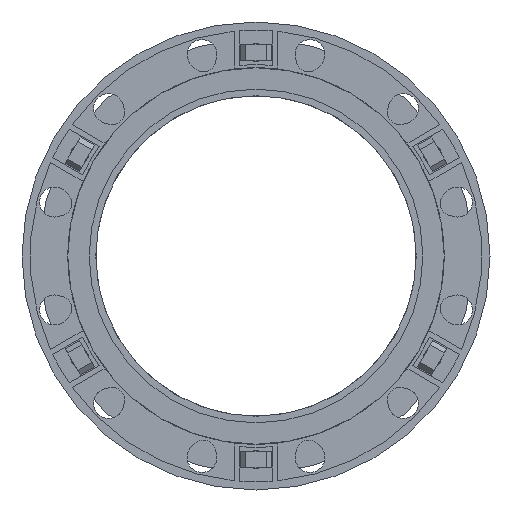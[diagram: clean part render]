
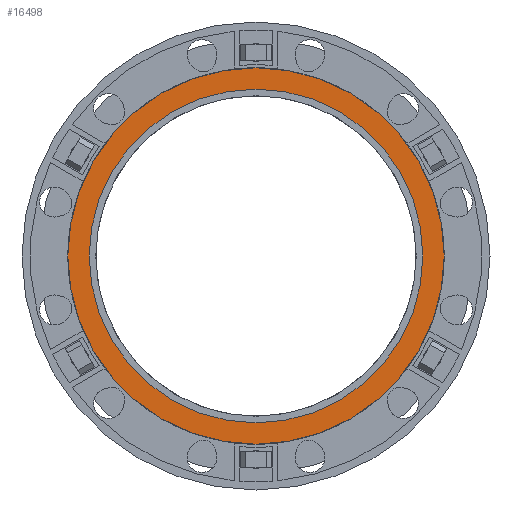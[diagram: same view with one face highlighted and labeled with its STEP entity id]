
A CAD part, front view. The second image highlights one B-rep face of the part: STEP entity #16498.
In plain terms, the highlighted planar face has unit normal (0, -1, 0).
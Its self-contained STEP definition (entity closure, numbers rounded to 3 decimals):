
#390 = DIRECTION ( 'NONE',  ( 0., 0., 1. ) ) ;
#1611 = EDGE_LOOP ( 'NONE', ( #19025, #16055 ) ) ;
#2580 = AXIS2_PLACEMENT_3D ( 'NONE', #5005, #11658, #10029 ) ;
#3862 = PLANE ( 'NONE',  #4025 ) ;
#4025 = AXIS2_PLACEMENT_3D ( 'NONE', #11941, #15541, #15434 ) ;
#4095 = CARTESIAN_POINT ( 'NONE',  ( 0., -3., 0. ) ) ;
#4376 = VERTEX_POINT ( 'NONE', #5958 ) ;
#5005 = CARTESIAN_POINT ( 'NONE',  ( 0., -3., 0. ) ) ;
#5958 = CARTESIAN_POINT ( 'NONE',  ( 0., -3., 185. ) ) ;
#6408 = EDGE_CURVE ( 'Defeatured_0_320+Defeatured_0_319+Defeatured_0_319+Defeatured_0_319', #4376, #19864, #12019, .T. ) ;
#6739 = EDGE_LOOP ( 'NONE', ( #17808, #19075 ) ) ;
#6813 = AXIS2_PLACEMENT_3D ( 'NONE', #9185, #7875, #12569 ) ;
#7875 = DIRECTION ( 'NONE',  ( 0., 1., 0. ) ) ;
#8620 = CIRCLE ( 'NONE', #14202, 185. ) ;
#8914 = EDGE_CURVE ( 'Defeatured_0_319+Defeatured_0_427+Defeatured_0_427+Defeatured_0_427', #17506, #17965, #20825, .T. ) ;
#9185 = CARTESIAN_POINT ( 'NONE',  ( 0., -3., 0. ) ) ;
#10029 = DIRECTION ( 'NONE',  ( 0., 0., 1. ) ) ;
#10519 = FACE_OUTER_BOUND ( 'NONE', #1611, .T. ) ;
#10996 = CARTESIAN_POINT ( 'NONE',  ( 0., -3., 164. ) ) ;
#11658 = DIRECTION ( 'NONE',  ( 0., 1., 0. ) ) ;
#11941 = CARTESIAN_POINT ( 'NONE',  ( 0., -3., 0. ) ) ;
#12019 = CIRCLE ( 'NONE', #6813, 185. ) ;
#12122 = EDGE_CURVE ( 'Defeatured_0_319+Defeatured_0_427+Defeatured_0_427+Defeatured_0_427', #17965, #17506, #21409, .T. ) ;
#12569 = DIRECTION ( 'NONE',  ( 0., 0., 1. ) ) ;
#14202 = AXIS2_PLACEMENT_3D ( 'NONE', #14746, #16716, #15073 ) ;
#14746 = CARTESIAN_POINT ( 'NONE',  ( 0., -3., 0. ) ) ;
#15073 = DIRECTION ( 'NONE',  ( 0., 0., 1. ) ) ;
#15434 = DIRECTION ( 'NONE',  ( 0., 0., 1. ) ) ;
#15541 = DIRECTION ( 'NONE',  ( 0., 1., 0. ) ) ;
#16055 = ORIENTED_EDGE ( 'NONE', *, *, #6408, .F. ) ;
#16294 = AXIS2_PLACEMENT_3D ( 'NONE', #4095, #20471, #390 ) ;
#16498 = ADVANCED_FACE ( 'Defeatured_0_319', ( #20233, #10519 ), #3862, .F. ) ;
#16716 = DIRECTION ( 'NONE',  ( 0., 1., 0. ) ) ;
#17506 = VERTEX_POINT ( 'NONE', #10996 ) ;
#17808 = ORIENTED_EDGE ( 'NONE', *, *, #12122, .T. ) ;
#17965 = VERTEX_POINT ( 'NONE', #18258 ) ;
#18258 = CARTESIAN_POINT ( 'NONE',  ( 0., -3., -164. ) ) ;
#18280 = EDGE_CURVE ( 'Defeatured_0_320+Defeatured_0_319+Defeatured_0_319+Defeatured_0_319', #19864, #4376, #8620, .T. ) ;
#18325 = CARTESIAN_POINT ( 'NONE',  ( 0., -3., -185. ) ) ;
#19025 = ORIENTED_EDGE ( 'NONE', *, *, #18280, .F. ) ;
#19075 = ORIENTED_EDGE ( 'NONE', *, *, #8914, .T. ) ;
#19864 = VERTEX_POINT ( 'NONE', #18325 ) ;
#20233 = FACE_BOUND ( 'NONE', #6739, .T. ) ;
#20471 = DIRECTION ( 'NONE',  ( 0., 1., 0. ) ) ;
#20825 = CIRCLE ( 'NONE', #16294, 164. ) ;
#21409 = CIRCLE ( 'NONE', #2580, 164. ) ;
